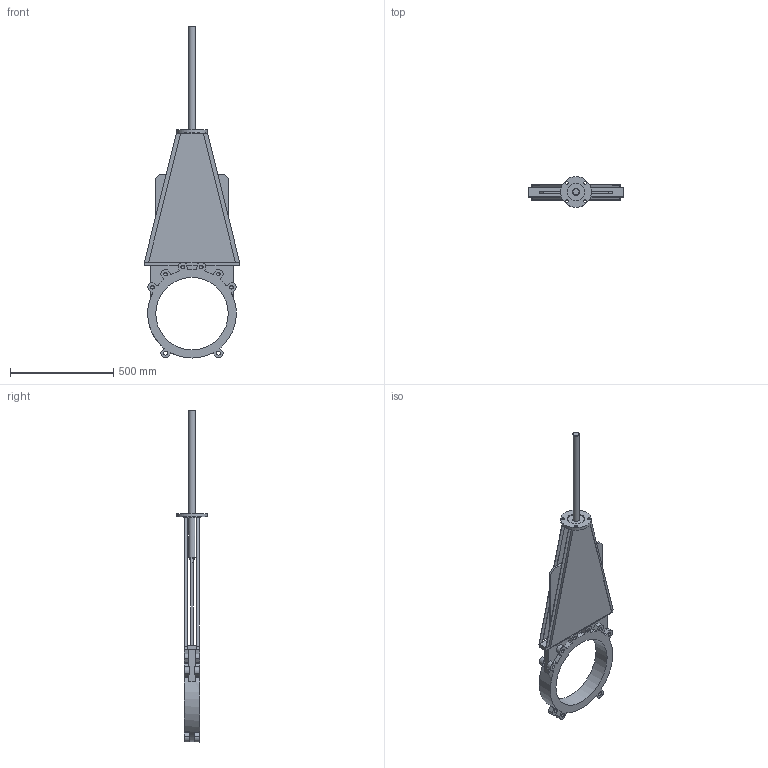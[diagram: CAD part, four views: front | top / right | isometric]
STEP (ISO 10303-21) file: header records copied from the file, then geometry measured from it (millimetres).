
FILE_DESCRIPTION(('STEP AP203'), '1');
FILE_NAME('K21GVA_DN350', '', ('UNSPECIFIED'), ('UNSPECIFIED'), 'ASCON STEP Converter 1.6', 'ASCON Math Kernel', '');
FILE_SCHEMA(('CONFIG_CONTROL_DESIGN'));
Length unit declared in the file: millimetre
Bounding box: 460 x 150 x 1605.5 mm (x, y, z)
Volume: 8322233.2 mm3; surface area: 1670744.7 mm2
Topology: 1 solids, 1 shells, 239 faces, 678 edges, 441 vertices
Faces by surface type: plane 140, cylinder 86, cone 13
Full cylindrical faces by diameter (mm): 14 x4, 17.294 x12, 19.294 x4, 32 x2, 80 x1, 84 x1, 150 x1, 350 x1
Entity records: 9686 total; most frequent: CARTESIAN_POINT 1528, DIRECTION 1316, ORIENTED_EDGE 1254, EDGE_CURVE 627, AXIS2_PLACEMENT_3D 453, VERTEX_POINT 429, LINE 410, VECTOR 410
